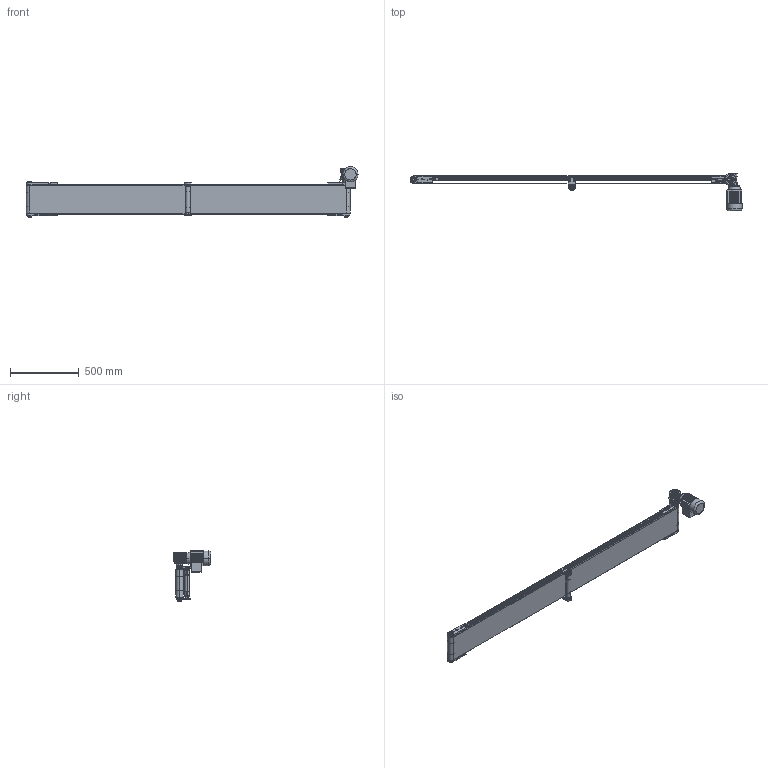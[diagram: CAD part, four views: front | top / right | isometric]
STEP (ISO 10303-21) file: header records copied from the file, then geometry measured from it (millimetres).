
FILE_DESCRIPTION (( 'STEP AP203' ), '1' );
FILE_NAME ('NASTRO_RETTILINEO_TAPPETO.step', '2026-04-21T05:35:05', ( 'Utente Windows' ), ( '' ), 'SwSTEP 2.0', 'SolidWorks 2024', '' );
FILE_SCHEMA (( 'CONFIG_CONTROL_DESIGN' ));
Length unit declared in the file: millimetre
Products named in the file (29): 084.802.008; VITI TE UNI 5739_M6x16 UNI 5739; BLOCCO_REGGITAPPETO; RULLO_1000_RINVIO; BLOCCO_RINVIO_1000_DX; 084.802.061; BLOCCO_RINVIO_1000_SX; NASTRO_RETTILINEO_TAPPETO; 084.301.000 VITI ALUSIC_084.301.003; CH03P_DX; 084.802.062; TAPPETO_STANDARD; 1000.50.00.005_1000.50.00.004; 084.802.014; 084.802.013-2; TELAIO_1000_STANDARD_Default<A macchina>; BLOCCO_BRACCIO_CH03P_VF30P; BLOCCO_TRAINO_1000_SX; 084.302.000 DADI ALUSIC 13x13_084.302.004; 084.802.017_084.802.017; BLOCCO_TRAINO_1000_30_DX; 084.802.028; 084.803.018; 1000.50.00.006_1000.50.00.004; VITI TCEI UNI 5931_M6x12 UNI 5931; 084.302.000 DADI ALUSIC 13x13-1_084.302.004; RULLO_REGGITAPPETO; RULLO_1000_TRAINO_30_DX; 084.808.012
Assembly tree (63 placements, depth 4):
  NASTRO_RETTILINEO_TAPPETO
    TAPPETO_STANDARD
    TELAIO_1000_STANDARD_Default<A macchina>
    RULLO_1000_TRAINO_30_DX
    BLOCCO_TRAINO_1000_30_DX
      1000.50.00.006_1000.50.00.004
      084.802.017_084.802.017
      084.301.000 VITI ALUSIC_084.301.003  x2
      084.302.000 DADI ALUSIC 13x13_084.302.004  x2
      BLOCCO_BRACCIO_CH03P_VF30P
        084.808.012
        084.802.062
        084.802.061
        VITI TE UNI 5739_M6x16 UNI 5739  x4
        084.803.018
        VITI TCEI UNI 5931_M6x12 UNI 5931  x4
    BLOCCO_TRAINO_1000_SX
      084.802.017_084.802.017
      1000.50.00.005_1000.50.00.004
      084.301.000 VITI ALUSIC_084.301.003  x2
      084.302.000 DADI ALUSIC 13x13_084.302.004  x2
    RULLO_1000_RINVIO
    BLOCCO_RINVIO_1000_SX
      1000.50.00.005_1000.50.00.004
      084.802.008
      084.802.017_084.802.017
      084.301.000 VITI ALUSIC_084.301.003  x3
      084.302.000 DADI ALUSIC 13x13-1_084.302.004  x3
    BLOCCO_RINVIO_1000_DX
      1000.50.00.006_1000.50.00.004
      084.802.008
      084.802.017_084.802.017
      084.302.000 DADI ALUSIC 13x13-1_084.302.004  x3
      084.301.000 VITI ALUSIC_084.301.003  x3
    BLOCCO_REGGITAPPETO  x2
      084.301.000 VITI ALUSIC_084.301.003
      084.302.000 DADI ALUSIC 13x13-1_084.302.004
      084.802.017_084.802.017
      084.802.028
      084.802.014
      084.802.013-2
    RULLO_REGGITAPPETO
    CH03P_DX
Bounding box: 2412 x 273 x 366.5 mm (x, y, z)
Volume: 8064225.6 mm3; surface area: 5238285.7 mm2
Topology: 76 solids, 84 shells, 3172 faces, 8168 edges, 5252 vertices
Faces by surface type: plane 1773, cylinder 784, cone 229, torus 214, bspline 148, sphere 24
Entity records: 69711 total; most frequent: CARTESIAN_POINT 17581, ORIENTED_EDGE 10118, DIRECTION 10005, EDGE_CURVE 5059, AXIS2_PLACEMENT_3D 3481, VERTEX_POINT 3260, LINE 3043, VECTOR 3043
